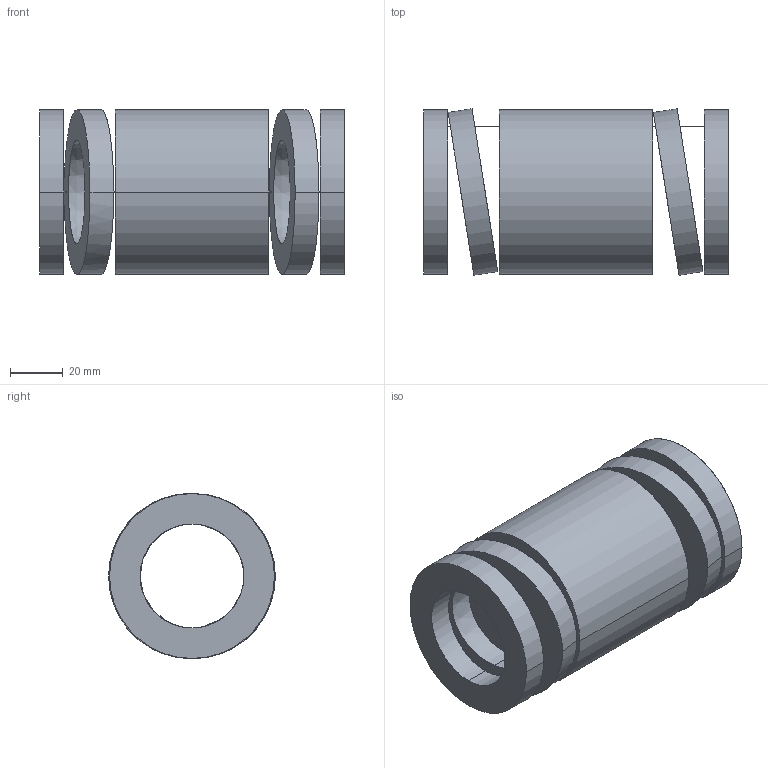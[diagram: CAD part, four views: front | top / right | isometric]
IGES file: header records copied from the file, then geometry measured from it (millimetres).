
Start section: START RECORD GO HERE.
Global section: file name: 392-B63-115.igs; native system: DASSAULT SYSTEMES CATIA V5 R20 - www.3ds.com; preprocessor: CATIA Version 5 Release 20 ; author: Utente; organization: NB04-ASUS; date: 20210813.135813; units: millimetre
Bounding box: 115 x 62.86 x 62.2 mm (x, y, z)
Surface area: 48394.9 mm2 (no closed solid volume)
Topology: 0 solids, 0 shells, 38 faces, 184 edges, 184 vertices
Faces by surface type: revolution 28, plane 10
